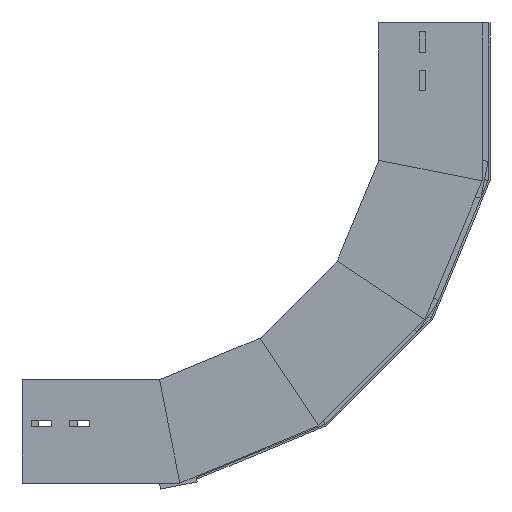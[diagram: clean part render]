
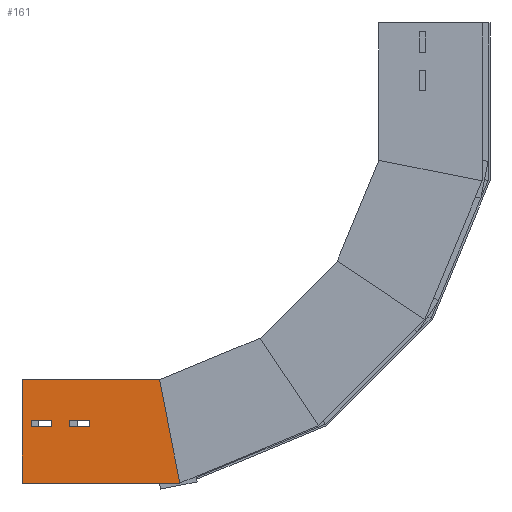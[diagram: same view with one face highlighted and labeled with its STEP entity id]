
A CAD part, left-side view. The second image highlights one B-rep face of the part: STEP entity #161.
In plain terms, the highlighted planar face has unit normal (-1, 0, 0) as drawn and (1, 0, 0) by its records, which use the part's own axes.
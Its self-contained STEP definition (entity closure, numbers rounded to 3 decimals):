
#16 = DIRECTION ( 'NONE',  ( 0., 0., -1. ) ) ;
#26 = LINE ( 'NONE', #1486, #513 ) ;
#39 = EDGE_LOOP ( 'NONE', ( #1181, #138, #1014, #989 ) ) ;
#41 = EDGE_CURVE ( 'NONE', #1060, #1781, #1513, .T. ) ;
#57 = VECTOR ( 'NONE', #1364, 1000. ) ;
#83 = ORIENTED_EDGE ( 'NONE', *, *, #806, .T. ) ;
#87 = CARTESIAN_POINT ( 'NONE',  ( 0., 61.5, -9.835 ) ) ;
#112 = EDGE_CURVE ( 'NONE', #277, #1278, #1201, .T. ) ;
#118 = VERTEX_POINT ( 'NONE', #1506 ) ;
#138 = ORIENTED_EDGE ( 'NONE', *, *, #1459, .T. ) ;
#147 = VERTEX_POINT ( 'NONE', #1698 ) ;
#153 = LINE ( 'NONE', #1022, #304 ) ;
#161 = ADVANCED_FACE ( 'NONE', ( #1381, #1409, #375 ), #1118, .F. ) ;
#235 = CARTESIAN_POINT ( 'NONE',  ( 0., 0., 0. ) ) ;
#246 = DIRECTION ( 'NONE',  ( -1., 0., 0. ) ) ;
#272 = VECTOR ( 'NONE', #364, 1000. ) ;
#277 = VERTEX_POINT ( 'NONE', #731 ) ;
#304 = VECTOR ( 'NONE', #1601, 1000. ) ;
#333 = LINE ( 'NONE', #1355, #358 ) ;
#341 = ORIENTED_EDGE ( 'NONE', *, *, #1488, .F. ) ;
#355 = ORIENTED_EDGE ( 'NONE', *, *, #1028, .F. ) ;
#358 = VECTOR ( 'NONE', #1182, 1000. ) ;
#364 = DIRECTION ( 'NONE',  ( 0., 0., -1. ) ) ;
#375 = FACE_BOUND ( 'NONE', #1873, .T. ) ;
#384 = EDGE_CURVE ( 'NONE', #1532, #1060, #565, .T. ) ;
#399 = VERTEX_POINT ( 'NONE', #1483 ) ;
#482 = CARTESIAN_POINT ( 'NONE',  ( 0., 68.5, -9.835 ) ) ;
#513 = VECTOR ( 'NONE', #16, 1000. ) ;
#516 = DIRECTION ( 'NONE',  ( 0., 1., 0. ) ) ;
#544 = LINE ( 'NONE', #666, #1463 ) ;
#565 = LINE ( 'NONE', #482, #1609 ) ;
#603 = VECTOR ( 'NONE', #1084, 1000. ) ;
#610 = EDGE_CURVE ( 'NONE', #1132, #118, #544, .T. ) ;
#618 = CARTESIAN_POINT ( 'NONE',  ( 0., 61.5, -51.505 ) ) ;
#626 = AXIS2_PLACEMENT_3D ( 'NONE', #235, #246, #1853 ) ;
#647 = LINE ( 'NONE', #87, #1006 ) ;
#666 = CARTESIAN_POINT ( 'NONE',  ( 0., 68.5, -51.505 ) ) ;
#678 = CARTESIAN_POINT ( 'NONE',  ( 0., 68.5, -31.835 ) ) ;
#700 = LINE ( 'NONE', #985, #1651 ) ;
#727 = DIRECTION ( 'NONE',  ( 0., 0., -1. ) ) ;
#731 = CARTESIAN_POINT ( 'NONE',  ( 0., 68.5, -73.505 ) ) ;
#757 = EDGE_CURVE ( 'NONE', #1751, #931, #1386, .T. ) ;
#806 = EDGE_CURVE ( 'NONE', #147, #1532, #647, .T. ) ;
#829 = CARTESIAN_POINT ( 'NONE',  ( 0., 112.5, 0. ) ) ;
#897 = EDGE_LOOP ( 'NONE', ( #355, #1188, #1005, #341 ) ) ;
#916 = CARTESIAN_POINT ( 'NONE',  ( 0., 68.5, -9.835 ) ) ;
#931 = VERTEX_POINT ( 'NONE', #1564 ) ;
#934 = ORIENTED_EDGE ( 'NONE', *, *, #41, .T. ) ;
#937 = CARTESIAN_POINT ( 'NONE',  ( 0., 0., 0. ) ) ;
#985 = CARTESIAN_POINT ( 'NONE',  ( 0., 61.5, -51.505 ) ) ;
#989 = ORIENTED_EDGE ( 'NONE', *, *, #1837, .T. ) ;
#1005 = ORIENTED_EDGE ( 'NONE', *, *, #757, .T. ) ;
#1006 = VECTOR ( 'NONE', #1254, 1000. ) ;
#1014 = ORIENTED_EDGE ( 'NONE', *, *, #112, .T. ) ;
#1022 = CARTESIAN_POINT ( 'NONE',  ( 0., 68.5, -31.835 ) ) ;
#1028 = EDGE_CURVE ( 'NONE', #399, #1570, #1708, .T. ) ;
#1060 = VERTEX_POINT ( 'NONE', #1851 ) ;
#1062 = CARTESIAN_POINT ( 'NONE',  ( 0., 68.5, -73.505 ) ) ;
#1084 = DIRECTION ( 'NONE',  ( 0., 1., 0. ) ) ;
#1094 = DIRECTION ( 'NONE',  ( 0., 1., 0. ) ) ;
#1107 = CARTESIAN_POINT ( 'NONE',  ( 0., 0., 0. ) ) ;
#1118 = PLANE ( 'NONE',  #626 ) ;
#1132 = VERTEX_POINT ( 'NONE', #618 ) ;
#1150 = ORIENTED_EDGE ( 'NONE', *, *, #1870, .T. ) ;
#1181 = ORIENTED_EDGE ( 'NONE', *, *, #610, .T. ) ;
#1182 = DIRECTION ( 'NONE',  ( 0., -0.981, -0.195 ) ) ;
#1188 = ORIENTED_EDGE ( 'NONE', *, *, #1255, .F. ) ;
#1193 = VECTOR ( 'NONE', #727, 1000. ) ;
#1201 = LINE ( 'NONE', #1062, #1460 ) ;
#1254 = DIRECTION ( 'NONE',  ( 0., 0., 1. ) ) ;
#1255 = EDGE_CURVE ( 'NONE', #1751, #399, #1693, .T. ) ;
#1278 = VERTEX_POINT ( 'NONE', #1525 ) ;
#1295 = CARTESIAN_POINT ( 'NONE',  ( 0., 0., 0. ) ) ;
#1346 = CARTESIAN_POINT ( 'NONE',  ( 0., 112.5, -149.722 ) ) ;
#1355 = CARTESIAN_POINT ( 'NONE',  ( 0., 32.93, -165.55 ) ) ;
#1364 = DIRECTION ( 'NONE',  ( 0., 0., -1. ) ) ;
#1381 = FACE_BOUND ( 'NONE', #39, .T. ) ;
#1386 = LINE ( 'NONE', #1107, #272 ) ;
#1409 = FACE_OUTER_BOUND ( 'NONE', #897, .T. ) ;
#1459 = EDGE_CURVE ( 'NONE', #118, #277, #26, .T. ) ;
#1460 = VECTOR ( 'NONE', #1782, 1000. ) ;
#1463 = VECTOR ( 'NONE', #516, 1000. ) ;
#1483 = CARTESIAN_POINT ( 'NONE',  ( 0., 112.5, 0. ) ) ;
#1486 = CARTESIAN_POINT ( 'NONE',  ( 0., 68.5, -51.505 ) ) ;
#1488 = EDGE_CURVE ( 'NONE', #1570, #931, #333, .T. ) ;
#1506 = CARTESIAN_POINT ( 'NONE',  ( 0., 68.5, -51.505 ) ) ;
#1513 = LINE ( 'NONE', #916, #57 ) ;
#1525 = CARTESIAN_POINT ( 'NONE',  ( 0., 61.5, -73.505 ) ) ;
#1532 = VERTEX_POINT ( 'NONE', #1616 ) ;
#1564 = CARTESIAN_POINT ( 'NONE',  ( 0., 0., -172.1 ) ) ;
#1567 = DIRECTION ( 'NONE',  ( 0., 0., 1. ) ) ;
#1570 = VERTEX_POINT ( 'NONE', #1346 ) ;
#1575 = ORIENTED_EDGE ( 'NONE', *, *, #384, .T. ) ;
#1601 = DIRECTION ( 'NONE',  ( 0., -1., 0. ) ) ;
#1609 = VECTOR ( 'NONE', #1094, 1000. ) ;
#1616 = CARTESIAN_POINT ( 'NONE',  ( 0., 61.5, -9.835 ) ) ;
#1651 = VECTOR ( 'NONE', #1567, 1000. ) ;
#1693 = LINE ( 'NONE', #937, #603 ) ;
#1698 = CARTESIAN_POINT ( 'NONE',  ( 0., 61.5, -31.835 ) ) ;
#1708 = LINE ( 'NONE', #829, #1193 ) ;
#1751 = VERTEX_POINT ( 'NONE', #1295 ) ;
#1781 = VERTEX_POINT ( 'NONE', #678 ) ;
#1782 = DIRECTION ( 'NONE',  ( 0., -1., 0. ) ) ;
#1837 = EDGE_CURVE ( 'NONE', #1278, #1132, #700, .T. ) ;
#1851 = CARTESIAN_POINT ( 'NONE',  ( 0., 68.5, -9.835 ) ) ;
#1853 = DIRECTION ( 'NONE',  ( 0., 0., 1. ) ) ;
#1870 = EDGE_CURVE ( 'NONE', #1781, #147, #153, .T. ) ;
#1873 = EDGE_LOOP ( 'NONE', ( #1575, #934, #1150, #83 ) ) ;
